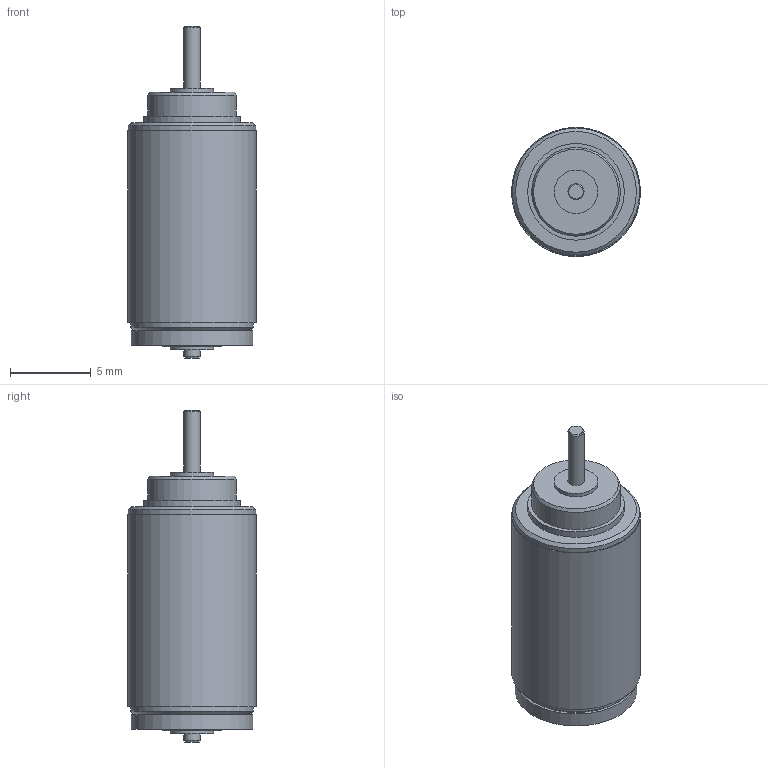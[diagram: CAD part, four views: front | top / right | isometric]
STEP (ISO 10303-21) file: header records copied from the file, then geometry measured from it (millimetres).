
FILE_DESCRIPTION(/* description */ (''),/* implementation_level */ '2;1');
FILE_NAME(/* name */ 'AM0820_01.stp',/* time_stamp */ '2018-11-27T15:46:31+01:00',/* author */ ('DR. FRITZ FAULHABER GmbH & Co. KG'),/* organization */ ('DR. FRITZ FAULHABER GmbH & Co. KG'),/* preprocessor_version */ 'ST-DEVELOPER v16.7',/* originating_system */ 'SIEMENS PLM Software NX 12.0',/* authorisation */ '');
FILE_SCHEMA (('AUTOMOTIVE_DESIGN { 1 0 10303 214 3 1 1 1 }'));
Length unit declared in the file: millimetre
Products named in the file (1): Alle_Motoren
Bounding box: 8 x 8 x 20.6 mm (x, y, z)
Volume: 738.6 mm3; surface area: 499.8 mm2
Topology: 1 solids, 1 shells, 107 faces, 253 edges, 167 vertices
Faces by surface type: plane 55, cylinder 35, extrusion 11, cone 6
Full cylindrical faces by diameter (mm): 1 x2, 2.7 x2, 4 x1, 5.5 x1, 6 x1, 7.55 x1, 7.6 x1, 7.9 x1, 8 x1
Entity records: 3577 total; most frequent: CARTESIAN_POINT 968, ORIENTED_EDGE 470, DIRECTION 442, EDGE_CURVE 235, AXIS2_PLACEMENT_3D 173, VERTEX_POINT 166, EDGE_LOOP 143, ADVANCED_FACE 107
